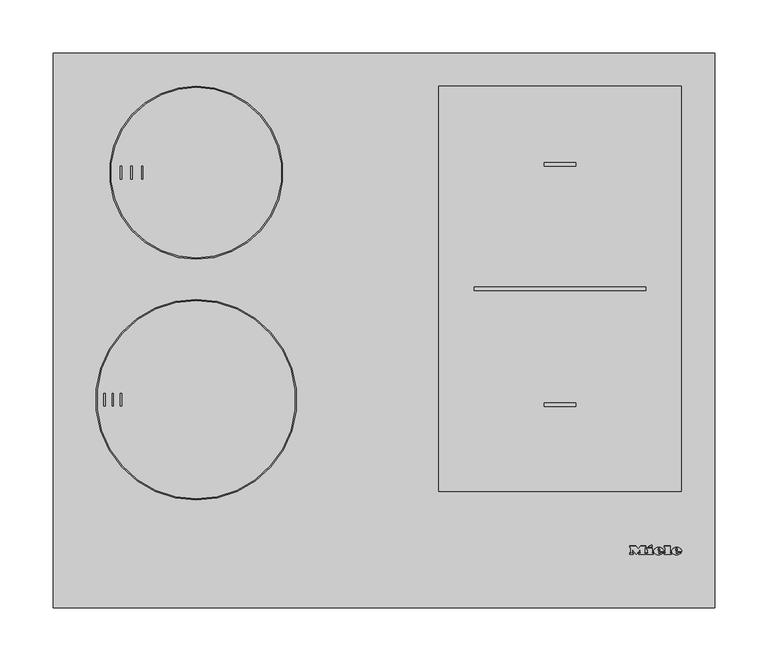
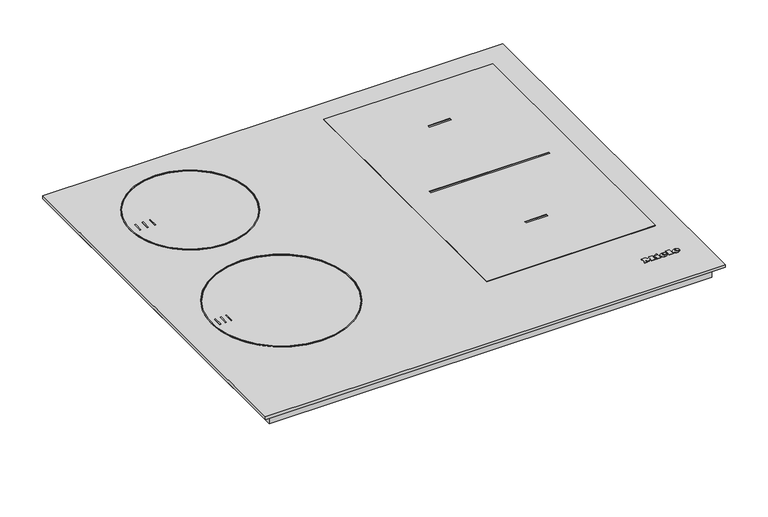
"""IFC4 building model written with IfcOpenShell, lengths in millimetres: proxy geometry, 12463620_TR_KM7466FL : 26746670_TR_12463620_KM7466FL."""

from ifc_helpers import new_model, si_unit, point, frame, frame_2d, origin, origin_with_axes, place, context, project, spatial, polyline, circle_curve, ellipse_curve, trimmed, segment, composite_curve, outline, extrude, source, transform, mapped, element, save
from ifc_brep_helpers import plane_surface, cylinder_surface, revolved_surface, extruded_surface, advanced_brep


def specialty_equipment_ddbcfdbc(model_context):
    return source(origin(), model_context, "Body", "SolidModel", [
        advanced_brep(
        [(273.66, 51.8948833, 4.4802537), (273.66, 52.7028828, 4.4811551), (279.012, 52.7028828, 4.4811551), (269.7, 52.7028828, 4.4811551), (271.9, 49.9988845, 4.4781386), (278.876, 51.8948833, 4.4802537), (276.46, 51.8948833, 4.4802537), (274.556, 50.9988838, 4.4792542), (273.66, 53.7268821, 4.4822974), (273.66, 54.5988816, 4.4832701), (275.028, 54.5988816, 4.4832701), (275.028, 53.7268821, 4.4822974), (273.66, 51.8959988, 3.4802543), (274.556, 50.9999994, 3.4792548), (276.46, 51.8959988, 3.4802543), (278.876, 51.8959988, 3.4802543), (271.9, 50.0, 3.4781393), (269.7, 52.7039983, 3.4811557), (279.012, 52.7039983, 3.4811557), (273.66, 52.7039983, 3.4811557), (273.66, 53.7279977, 3.482298), (275.028, 53.7279977, 3.482298), (275.028, 54.5999971, 3.4832707), (273.66, 54.5999971, 3.4832707)],
        [
            (0, 1),
            (1, 2),
            (2, 3, ellipse_curve(frame((274.356, 52.7028828, 4.4811551), z_axis=(0.0, -0.0011155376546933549, 0.9999993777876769), x_axis=(-1.0, 0.0, 0.0)), 4.656, 3.848)),
            (3, 4, circle_curve(frame((272.7960436, 52.9748826, 4.4814585), z_axis=(0.0, -0.0011155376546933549, 0.9999993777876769), x_axis=(0.0, -0.9999993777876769, -0.0011155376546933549)), 3.1079688)),
            (4, 5, circle_curve(frame((274.2627936, 55.0868813, 4.4838145), z_axis=(0.0, -0.0011155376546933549, 0.9999993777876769), x_axis=(0.0, -0.9999993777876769, -0.0011155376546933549)), 5.6098607)),
            (5, 6),
            (6, 7, circle_curve(frame((274.9470588, 52.6388828, 4.4810837), z_axis=(0.0, 0.0011155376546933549, -0.9999993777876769), x_axis=(0.0, -0.9999993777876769, -0.0011155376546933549)), 1.6859795)),
            (7, 0, circle_curve(frame((274.556, 51.8948833, 4.4802537), z_axis=(0.0, 0.0011155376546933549, -0.9999993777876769), x_axis=(0.0, -0.9999993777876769, -0.0011155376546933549)), 0.896)),
            (8, 9),
            (9, 10, circle_curve(frame((274.344, 54.5988816, 4.4832701), z_axis=(0.0, 0.0011155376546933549, -0.9999993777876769), x_axis=(0.0, -0.9999993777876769, -0.0011155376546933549)), 0.684)),
            (10, 11),
            (11, 8),
            (12, 13, circle_curve(frame((274.556, 51.8959988, 3.4802543), z_axis=(0.0, -0.0011155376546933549, 0.9999993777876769), x_axis=(0.0, -0.9999993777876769, -0.0011155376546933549)), 0.896)),
            (13, 14, circle_curve(frame((274.9470588, 52.6399984, 3.4810843), z_axis=(0.0, -0.0011155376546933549, 0.9999993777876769), x_axis=(0.0, -0.9999993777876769, -0.0011155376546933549)), 1.6859795)),
            (14, 15),
            (15, 16, circle_curve(frame((274.2627936, 55.0879968, 3.4838151), z_axis=(0.0, 0.0011155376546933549, -0.9999993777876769), x_axis=(0.0, -0.9999993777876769, -0.0011155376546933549)), 5.6098607)),
            (16, 17, circle_curve(frame((272.7960436, 52.9759981, 3.4814591), z_axis=(0.0, 0.0011155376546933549, -0.9999993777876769), x_axis=(0.0, -0.9999993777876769, -0.0011155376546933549)), 3.1079688)),
            (17, 18, ellipse_curve(frame((274.356, 52.7039983, 3.4811557), z_axis=(0.0, 0.0011155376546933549, -0.9999993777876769), x_axis=(-1.0, 0.0, 0.0)), 4.656, 3.848)),
            (18, 19),
            (19, 12),
            (20, 21),
            (21, 22),
            (22, 23, circle_curve(frame((274.344, 54.5999971, 3.4832707), z_axis=(0.0, -0.0011155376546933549, 0.9999993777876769), x_axis=(0.0, -0.9999993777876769, -0.0011155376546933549)), 0.684)),
            (23, 20),
            (0, 12),
            (19, 1),
            (18, 2),
            (5, 15),
            (14, 6),
            (17, 3),
            (13, 7),
            (16, 4),
            (8, 20),
            (23, 9),
            (22, 10),
            (21, 11),
        ],
        [
            plane_surface(frame((273.66, 52.7028828, 4.4811551), z_axis=(0.0, -0.0011155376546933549, 0.9999993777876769), x_axis=(0.0, 0.9999993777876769, 0.0011155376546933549))),
            plane_surface(frame((273.66, 52.7039983, 3.4811557), z_axis=(0.0, 0.0011155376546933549, -0.9999993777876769), x_axis=(0.0, -0.9999993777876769, -0.0011155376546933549))),
            plane_surface(frame((273.66, 51.8948833, 4.4802537), z_axis=(1.0000000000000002, 0.0, 0.0), x_axis=(0.0, 0.001115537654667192, -0.999999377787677))),
            plane_surface(frame((273.66, 52.7028828, 4.4811551), z_axis=(0.0, -0.999999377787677, -0.001115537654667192), x_axis=(0.0, 0.001115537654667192, -0.999999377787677))),
            plane_surface(frame((278.876, 51.8948833, 4.4802537), z_axis=(0.0, 0.999999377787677, 0.001115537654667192), x_axis=(0.0, 0.001115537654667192, -0.999999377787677))),
            extruded_surface(trimmed(ellipse_curve(frame((274.356, 52.7051139, 2.4811563), z_axis=(0.0, -0.0011155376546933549, 0.9999993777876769), x_axis=(-1.0, 0.0, 0.0)), 4.656, 3.848), [point((279.012, 52.7051139, 2.4811563))], [point((269.7, 52.7051139, 2.4811563))], True, "CARTESIAN"), (0.0, -0.001115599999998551, 0.9999994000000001), 1.00000002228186),
            revolved_surface(polyline([(274.9470588, 50.954019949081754, 3.479203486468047), (274.9470588, 50.95290441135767, 4.4792029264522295)]), (274.9470588, 52.6399984, 3.4810843), (0.0, 0.0011155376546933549, -0.9999993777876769)),
            revolved_surface(polyline([(274.556, 50.99999935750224, 3.4792547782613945), (274.556, 50.99888381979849, 4.479254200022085)]), (274.556, 51.8959988, 3.4802543), (0.0, 0.0011155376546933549, -0.9999993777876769)),
            cylinder_surface(frame((272.7960436, 52.9759981, 3.4814591), z_axis=(0.0, -0.0011155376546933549, 0.9999993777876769), x_axis=(0.0, -0.9999993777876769, -0.0011155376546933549)), 3.1079688),
            cylinder_surface(frame((274.2627936, 55.0879968, 3.4838151), z_axis=(0.0, -0.0011155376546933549, 0.9999993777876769), x_axis=(0.0, -0.9999993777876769, -0.0011155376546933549)), 5.6098607),
            plane_surface(frame((273.66, 53.7268821, 4.4822974), z_axis=(1.0000000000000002, 0.0, 0.0), x_axis=(0.0, 0.001115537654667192, -0.999999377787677))),
            revolved_surface(polyline([(274.344, 53.915997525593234, 3.4825076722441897), (274.344, 53.91488198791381, 4.482507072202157)]), (274.344, 54.5999971, 3.4832707), (0.0, 0.0011155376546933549, -0.9999993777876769)),
            plane_surface(frame((275.028, 54.5988816, 4.4832701), z_axis=(-1.0000000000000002, 0.0, 0.0), x_axis=(0.0, 0.001115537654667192, -0.999999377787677))),
            plane_surface(frame((275.028, 53.7268821, 4.4822974), z_axis=(0.0, 0.999999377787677, 0.001115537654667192), x_axis=(0.0, 0.001115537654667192, -0.999999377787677))),
        ],
        [
            (0, [[1, 2, 3, 4, 5, 6, 7, 8], [9, 10, 11, 12]]),
            (1, [[13, 14, 15, 16, 17, 18, 19, 20], [21, 22, 23, 24]]),
            (2, [[-1, 25, -20, 26]]),
            (3, [[-2, -26, -19, 27]]),
            (4, [[-6, 28, -15, 29]]),
            (5, [[-3, -27, -18, 30]]),
            (6, [[-7, -29, -14, 31]]),
            (7, [[-8, -31, -13, -25]]),
            (8, [[-4, -30, -17, 32]]),
            (9, [[-5, -32, -16, -28]]),
            (10, [[-9, 33, -24, 34]]),
            (11, [[-10, -34, -23, 35]]),
            (12, [[-11, -35, -22, 36]]),
            (13, [[-12, -36, -21, -33]]),
        ],
    ),
        advanced_brep(
        [(256.964, 51.8948833, 4.4802537), (256.964, 52.7028828, 4.4811551), (262.316, 52.7028828, 4.4811551), (253.004, 52.7028828, 4.4811551), (255.204, 49.9988845, 4.4781386), (262.18, 51.8948833, 4.4802537), (259.764, 51.8948833, 4.4802537), (257.86, 50.9988838, 4.4792542), (256.964, 53.7268821, 4.4822974), (256.964, 54.5988816, 4.4832701), (258.332, 54.5988816, 4.4832701), (258.332, 53.7268821, 4.4822974), (256.964, 51.8959988, 3.4802543), (257.86, 50.9999994, 3.4792548), (259.764, 51.8959988, 3.4802543), (262.18, 51.8959988, 3.4802543), (255.204, 50.0, 3.4781393), (253.004, 52.7039983, 3.4811557), (262.316, 52.7039983, 3.4811557), (256.964, 52.7039983, 3.4811557), (256.964, 53.7279977, 3.482298), (258.332, 53.7279977, 3.482298), (258.332, 54.5999971, 3.4832707), (256.964, 54.5999971, 3.4832707)],
        [
            (0, 1),
            (1, 2),
            (2, 3, ellipse_curve(frame((257.66, 52.7028828, 4.4811551), z_axis=(0.0, -0.0011155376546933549, 0.9999993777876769), x_axis=(-1.0, 0.0, 0.0)), 4.656, 3.848)),
            (3, 4, circle_curve(frame((256.1000436, 52.9748826, 4.4814585), z_axis=(0.0, -0.0011155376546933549, 0.9999993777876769), x_axis=(0.0, -0.9999993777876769, -0.0011155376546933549)), 3.1079688)),
            (4, 5, circle_curve(frame((257.5667936, 55.0868813, 4.4838145), z_axis=(0.0, -0.0011155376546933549, 0.9999993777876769), x_axis=(0.0, -0.9999993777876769, -0.0011155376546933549)), 5.6098607)),
            (5, 6),
            (6, 7, circle_curve(frame((258.2510588, 52.6388828, 4.4810837), z_axis=(0.0, 0.0011155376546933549, -0.9999993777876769), x_axis=(0.0, -0.9999993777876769, -0.0011155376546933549)), 1.6859795)),
            (7, 0, circle_curve(frame((257.86, 51.8948833, 4.4802537), z_axis=(0.0, 0.0011155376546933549, -0.9999993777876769), x_axis=(0.0, -0.9999993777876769, -0.0011155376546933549)), 0.896)),
            (8, 9),
            (9, 10, circle_curve(frame((257.648, 54.5988816, 4.4832701), z_axis=(0.0, 0.0011155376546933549, -0.9999993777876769), x_axis=(0.0, -0.9999993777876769, -0.0011155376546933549)), 0.684)),
            (10, 11),
            (11, 8),
            (12, 13, circle_curve(frame((257.86, 51.8959988, 3.4802543), z_axis=(0.0, -0.0011155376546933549, 0.9999993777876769), x_axis=(0.0, -0.9999993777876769, -0.0011155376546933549)), 0.896)),
            (13, 14, circle_curve(frame((258.2510588, 52.6399984, 3.4810843), z_axis=(0.0, -0.0011155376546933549, 0.9999993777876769), x_axis=(0.0, -0.9999993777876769, -0.0011155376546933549)), 1.6859795)),
            (14, 15),
            (15, 16, circle_curve(frame((257.5667936, 55.0879968, 3.4838151), z_axis=(0.0, 0.0011155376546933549, -0.9999993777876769), x_axis=(0.0, -0.9999993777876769, -0.0011155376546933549)), 5.6098607)),
            (16, 17, circle_curve(frame((256.1000436, 52.9759981, 3.4814591), z_axis=(0.0, 0.0011155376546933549, -0.9999993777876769), x_axis=(0.0, -0.9999993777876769, -0.0011155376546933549)), 3.1079688)),
            (17, 18, ellipse_curve(frame((257.66, 52.7039983, 3.4811557), z_axis=(0.0, 0.0011155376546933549, -0.9999993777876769), x_axis=(-1.0, 0.0, 0.0)), 4.656, 3.848)),
            (18, 19),
            (19, 12),
            (20, 21),
            (21, 22),
            (22, 23, circle_curve(frame((257.648, 54.5999971, 3.4832707), z_axis=(0.0, -0.0011155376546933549, 0.9999993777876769), x_axis=(0.0, -0.9999993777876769, -0.0011155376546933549)), 0.684)),
            (23, 20),
            (0, 12),
            (19, 1),
            (18, 2),
            (5, 15),
            (14, 6),
            (17, 3),
            (13, 7),
            (16, 4),
            (8, 20),
            (23, 9),
            (22, 10),
            (21, 11),
        ],
        [
            plane_surface(frame((256.964, 52.7028828, 4.4811551), z_axis=(0.0, -0.0011155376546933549, 0.9999993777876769), x_axis=(0.0, 0.9999993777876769, 0.0011155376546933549))),
            plane_surface(frame((256.964, 52.7039983, 3.4811557), z_axis=(0.0, 0.0011155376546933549, -0.9999993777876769), x_axis=(0.0, -0.9999993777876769, -0.0011155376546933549))),
            plane_surface(frame((256.964, 51.8948833, 4.4802537), z_axis=(1.0000000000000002, 0.0, 0.0), x_axis=(0.0, 0.001115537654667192, -0.999999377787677))),
            plane_surface(frame((256.964, 52.7028828, 4.4811551), z_axis=(0.0, -0.999999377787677, -0.001115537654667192), x_axis=(0.0, 0.001115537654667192, -0.999999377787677))),
            plane_surface(frame((262.18, 51.8948833, 4.4802537), z_axis=(0.0, 0.999999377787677, 0.001115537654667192), x_axis=(0.0, 0.001115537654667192, -0.999999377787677))),
            extruded_surface(trimmed(ellipse_curve(frame((257.66, 52.7051139, 2.4811563), z_axis=(0.0, -0.0011155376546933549, 0.9999993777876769), x_axis=(-1.0, 0.0, 0.0)), 4.656, 3.848), [point((262.316, 52.7051139, 2.4811563))], [point((253.004, 52.7051139, 2.4811563))], True, "CARTESIAN"), (0.0, -0.001115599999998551, 0.9999994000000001), 1.00000002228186),
            revolved_surface(polyline([(258.2510588, 50.954019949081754, 3.479203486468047), (258.2510588, 50.95290441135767, 4.4792029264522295)]), (258.2510588, 52.6399984, 3.4810843), (0.0, 0.0011155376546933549, -0.9999993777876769)),
            revolved_surface(polyline([(257.86, 50.99999935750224, 3.4792547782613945), (257.86, 50.99888381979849, 4.479254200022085)]), (257.86, 51.8959988, 3.4802543), (0.0, 0.0011155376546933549, -0.9999993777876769)),
            cylinder_surface(frame((256.1000436, 52.9759981, 3.4814591), z_axis=(0.0, -0.0011155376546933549, 0.9999993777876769), x_axis=(0.0, -0.9999993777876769, -0.0011155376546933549)), 3.1079688),
            cylinder_surface(frame((257.5667936, 55.0879968, 3.4838151), z_axis=(0.0, -0.0011155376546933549, 0.9999993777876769), x_axis=(0.0, -0.9999993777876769, -0.0011155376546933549)), 5.6098607),
            plane_surface(frame((256.964, 53.7268821, 4.4822974), z_axis=(1.0000000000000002, 0.0, 0.0), x_axis=(0.0, 0.001115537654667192, -0.999999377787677))),
            revolved_surface(polyline([(257.648, 53.915997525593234, 3.4825076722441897), (257.648, 53.91488198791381, 4.482507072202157)]), (257.648, 54.5999971, 3.4832707), (0.0, 0.0011155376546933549, -0.9999993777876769)),
            plane_surface(frame((258.332, 54.5988816, 4.4832701), z_axis=(-1.0000000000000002, 0.0, 0.0), x_axis=(0.0, 0.001115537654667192, -0.999999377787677))),
            plane_surface(frame((258.332, 53.7268821, 4.4822974), z_axis=(0.0, 0.999999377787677, 0.001115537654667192), x_axis=(0.0, 0.001115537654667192, -0.999999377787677))),
        ],
        [
            (0, [[1, 2, 3, 4, 5, 6, 7, 8], [9, 10, 11, 12]]),
            (1, [[13, 14, 15, 16, 17, 18, 19, 20], [21, 22, 23, 24]]),
            (2, [[-1, 25, -20, 26]]),
            (3, [[-2, -26, -19, 27]]),
            (4, [[-6, 28, -15, 29]]),
            (5, [[-3, -27, -18, 30]]),
            (6, [[-7, -29, -14, 31]]),
            (7, [[-8, -31, -13, -25]]),
            (8, [[-4, -30, -17, 32]]),
            (9, [[-5, -32, -16, -28]]),
            (10, [[-9, 33, -24, 34]]),
            (11, [[-10, -34, -23, 35]]),
            (12, [[-11, -35, -22, 36]]),
            (13, [[-12, -36, -21, -33]]),
        ],
    ),
        extrude(outline(polyline([(0.0, 0.0), (-0.0109086, -2.9993294), (-1.4390415, -2.9920868), (-1.4315307, 0.0), (0.0, 0.0)])), frame((248.22, 57.5279953, 3.486537), z_axis=(0.0, -0.001115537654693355, 0.9999993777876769), x_axis=(-0.4247202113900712, 0.9053240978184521, 0.0010099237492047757)), (0.0, 0.0, 1.0), 1.0),
        extrude(outline(polyline([(-0.4933908, 2.4141097), (-2.7800844, -2.4601583), (-7.0459741, -0.4588767), (-7.4401145, -1.299018), (-8.6568709, -0.728194), (-5.9760369, 4.9862153), (-4.7592805, 4.4153913), (-5.1636142, 3.5535222), (-2.1941493, 2.1604399), (-1.7898157, 3.022309), (-0.4933908, 2.4141097)])), frame((248.22, 57.5279953, 3.486537), z_axis=(0.0, -0.001115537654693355, 0.9999993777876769), x_axis=(-0.4247202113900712, 0.9053240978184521, 0.0010099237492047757)), (0.0, 0.0, 1.0), 1.0),
        extrude(outline(polyline([(0.0, 0.0), (0.0, -1.304), (-5.504, -1.304), (-5.504, 5.3519999), (-6.488, 5.3519999), (-6.488, 6.696), (0.0, 6.696), (0.0, 5.3519999), (-0.96, 5.3519999), (-0.96, 0.0), (0.0, 0.0)])), frame((262.764, 56.6959958, 3.4856089), z_axis=(0.0, -0.0011155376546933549, 0.9999993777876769), x_axis=(-1.0, 0.0, 0.0)), (0.0, 0.0, 1.0), 1.0),
        extrude(outline(polyline([(0.0, 0.0), (0.0, -1.304), (-5.576, -1.304), (-7.92, 1.696), (-10.256, -1.304), (-15.128, -1.304), (-15.128, 0.0), (-14.112, 0.0), (-14.112, 5.3519999), (-15.128, 5.3519999), (-15.128, 6.696), (-8.744, 6.696), (-8.744, 5.3519999), (-9.728, 5.3519999), (-9.728, 1.8807777), (-6.136, 6.696), (-2.56, 1.9488752), (-2.56, 5.3519999), (-3.52, 5.3519999), (-3.52, 6.696), (0.0, 6.696), (0.0, 5.3519999), (-0.968, 5.3519999), (-0.968, 0.0), (0.0, 0.0)])), frame((230.3, 56.6959958, 3.4856089), z_axis=(0.0, -0.0011155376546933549, 0.9999993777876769), x_axis=(-1.0, 0.0, 0.0)), (0.0, 0.0, 1.0), 1.0),
        extrude(outline(polyline([(310.0, 520.0), (310.0, 0.0), (-310.0, 0.0), (-310.0, 520.0), (310.0, 520.0)])), origin_with_axes(), (0.0, 0.0, 1.0), 4.0),
        extrude(outline(polyline([(298.5, 508.5), (298.5, 11.5), (-298.5, 11.5), (-298.5, 508.5), (298.5, 508.5)])), frame((0.0, 0.0, -16.8), z_axis=(0.0, 0.0, 1.0), x_axis=(1.0, 0.0, 0.0)), (0.0, 0.0, 1.0), 16.8),
        extrude(outline(polyline([(-202.8, 318.7), (-224.2, 318.7), (-224.2, 402.1), (-202.8, 402.1), (-202.8, 452.3), (203.2, 452.3), (203.2, 81.3), (-202.8, 81.3), (-202.8, 318.7)])), frame((0.0, 0.0, -46.5), z_axis=(0.0, 0.0, 1.0), x_axis=(1.0, 0.0, 0.0)), (0.0, 0.0, 1.0), 29.7),
        extrude(outline(polyline([(141.2772603, 415.5), (133.9, 415.5), (133.9, 416.7557039), (140.0215564, 416.7557039), (140.0215564, 420.0519266), (134.370889, 420.0519266), (134.370889, 421.3076304), (140.0215564, 421.3076304), (140.0215564, 424.2899271), (134.056963, 424.2899271), (134.056963, 425.545631), (141.2772603, 425.545631), (141.2772603, 415.5)])), frame((0.0, 0.0, -77.5), z_axis=(0.0, 0.0, 1.0), x_axis=(1.0, 0.0, 0.0)), (0.0, 0.0, 1.0), 1.0),
        extrude(outline(polyline([(132.0164442, 415.5), (125.7379248, 415.5), (125.7379248, 416.7557039), (130.7607403, 416.7557039), (130.7607403, 425.545631), (132.0164442, 425.545631), (132.0164442, 415.5)])), frame((0.0, 0.0, -77.5), z_axis=(0.0, 0.0, 1.0), x_axis=(1.0, 0.0, 0.0)), (0.0, 0.0, 1.0), 1.0),
        extrude(outline(composite_curve([segment(trimmed(circle_curve(frame_2d((133.9, 420.5)), 7.5), [point((133.9, 428.0))], [point((133.9, 413.0))], False, "CARTESIAN"), True, "CONTINUOUS"), segment(trimmed(circle_curve(frame_2d((133.9, 420.5)), 7.5), [point((133.9, 413.0))], [point((133.9, 428.0))], False, "CARTESIAN"), True, "CONTINUOUS")], self_intersect=False)), frame((0.0, 0.0, -76.5), z_axis=(0.0, 0.0, 1.0), x_axis=(1.0, 0.0, 0.0)), (0.0, 0.0, 1.0), 30.0),
        extrude(outline(polyline([(278.75, 489.25), (278.75, 108.75), (51.25, 108.75), (51.25, 489.25), (278.75, 489.25)]), holes=[polyline([(245.3, 300.6), (84.7, 300.6), (84.7, 297.4), (245.3, 297.4), (245.3, 300.6)]), polyline([(179.65, 417.35), (150.35, 417.35), (150.35, 414.15), (179.65, 414.15), (179.65, 417.35)]), polyline([(179.65, 191.85), (150.35, 191.85), (150.35, 188.65), (179.65, 188.65), (179.65, 191.85)])]), frame((0.0, 0.0, 4.0), z_axis=(0.0, 0.0, 1.0), x_axis=(1.0, 0.0, 0.0)), (0.0, 0.0, 1.0), 1.0),
        extrude(outline(composite_curve([segment(trimmed(circle_curve(frame_2d((-291.0, 80.0)), 3.0), [point((-291.0, 83.0))], [point((-291.0, 77.0))], False, "CARTESIAN"), True, "CONTINUOUS"), segment(trimmed(circle_curve(frame_2d((-291.0, 80.0)), 3.0), [point((-291.0, 77.0))], [point((-291.0, 83.0))], False, "CARTESIAN"), True, "CONTINUOUS")], self_intersect=False)), frame((0.0, 0.0, -22.0), z_axis=(0.0, 0.0, 1.0), x_axis=(1.0, 0.0, 0.0)), (0.0, 0.0, 1.0), 5.2),
        extrude(outline(composite_curve([segment(trimmed(circle_curve(frame_2d((291.0, 440.0)), 3.0), [point((291.0, 443.0))], [point((291.0, 437.0))], False, "CARTESIAN"), True, "CONTINUOUS"), segment(trimmed(circle_curve(frame_2d((291.0, 440.0)), 3.0), [point((291.0, 437.0))], [point((291.0, 443.0))], False, "CARTESIAN"), True, "CONTINUOUS")], self_intersect=False)), frame((0.0, 0.0, -22.0), z_axis=(0.0, 0.0, 1.0), x_axis=(1.0, 0.0, 0.0)), (0.0, 0.0, 1.0), 5.2),
        extrude(outline(composite_curve([segment(trimmed(circle_curve(frame_2d((-176.0, 408.0)), 81.2), [point((-176.0, 489.2))], [point((-176.0, 326.8))], False, "CARTESIAN"), True, "CONTINUOUS"), segment(trimmed(circle_curve(frame_2d((-176.0, 408.0)), 81.2), [point((-176.0, 326.8))], [point((-176.0, 489.2))], False, "CARTESIAN"), True, "CONTINUOUS")], self_intersect=False), holes=[composite_curve([segment(trimmed(circle_curve(frame_2d((-176.0, 408.0)), 80.0), [point((-176.0, 488.0))], [point((-176.0, 328.0))], True, "CARTESIAN"), True, "CONTINUOUS"), segment(trimmed(circle_curve(frame_2d((-176.0, 408.0)), 80.0), [point((-176.0, 328.0))], [point((-176.0, 488.0))], True, "CARTESIAN"), True, "CONTINUOUS")], self_intersect=False)]), frame((0.0, 0.0, 4.0), z_axis=(0.0, 0.0, 1.0), x_axis=(1.0, 0.0, 0.0)), (0.0, 0.0, 1.0), 1.0),
        extrude(outline(polyline([(-227.2, 414.0), (-226.0, 414.0), (-226.0, 402.0), (-227.2, 402.0), (-227.2, 414.0)])), frame((0.0, 0.0, 4.0), z_axis=(0.0, 0.0, 1.0), x_axis=(1.0, 0.0, 0.0)), (0.0, 0.0, 1.0), 1.0),
        extrude(outline(polyline([(-237.2, 414.0), (-236.0, 414.0), (-236.0, 402.0), (-237.2, 402.0), (-237.2, 414.0)])), frame((0.0, 0.0, 4.0), z_axis=(0.0, 0.0, 1.0), x_axis=(1.0, 0.0, 0.0)), (0.0, 0.0, 1.0), 1.0),
        extrude(outline(polyline([(-247.2, 414.0), (-246.0, 414.0), (-246.0, 402.0), (-247.2, 402.0), (-247.2, 414.0)])), frame((0.0, 0.0, 4.0), z_axis=(0.0, 0.0, 1.0), x_axis=(1.0, 0.0, 0.0)), (0.0, 0.0, 1.0), 1.0),
        extrude(outline(composite_curve([segment(trimmed(circle_curve(frame_2d((-176.0, 195.0)), 94.2), [point((-176.0, 289.2))], [point((-176.0, 100.8))], False, "CARTESIAN"), True, "CONTINUOUS"), segment(trimmed(circle_curve(frame_2d((-176.0, 195.0)), 94.2), [point((-176.0, 100.8))], [point((-176.0, 289.2))], False, "CARTESIAN"), True, "CONTINUOUS")], self_intersect=False), holes=[composite_curve([segment(trimmed(circle_curve(frame_2d((-176.0, 195.0)), 93.0), [point((-176.0, 288.0))], [point((-176.0, 102.0))], True, "CARTESIAN"), True, "CONTINUOUS"), segment(trimmed(circle_curve(frame_2d((-176.0, 195.0)), 93.0), [point((-176.0, 102.0))], [point((-176.0, 288.0))], True, "CARTESIAN"), True, "CONTINUOUS")], self_intersect=False)]), frame((0.0, 0.0, 4.0), z_axis=(0.0, 0.0, 1.0), x_axis=(1.0, 0.0, 0.0)), (0.0, 0.0, 1.0), 1.0),
        extrude(outline(polyline([(-247.2, 201.0), (-246.0, 201.0), (-246.0, 189.0), (-247.2, 189.0), (-247.2, 201.0)])), frame((0.0, 0.0, 4.0), z_axis=(0.0, 0.0, 1.0), x_axis=(1.0, 0.0, 0.0)), (0.0, 0.0, 1.0), 1.0),
        extrude(outline(polyline([(-254.9, 201.0), (-253.7, 201.0), (-253.7, 189.0), (-254.9, 189.0), (-254.9, 201.0)])), frame((0.0, 0.0, 4.0), z_axis=(0.0, 0.0, 1.0), x_axis=(1.0, 0.0, 0.0)), (0.0, 0.0, 1.0), 1.0),
        extrude(outline(polyline([(-262.6, 201.0), (-261.4, 201.0), (-261.4, 189.0), (-262.6, 189.0), (-262.6, 201.0)])), frame((0.0, 0.0, 4.0), z_axis=(0.0, 0.0, 1.0), x_axis=(1.0, 0.0, 0.0)), (0.0, 0.0, 1.0), 1.0),
    ])


if __name__ == "__main__":
    model = new_model("IFC4")
    model_context = context("Model", 3, world=origin())
    ifc_project = project(units=[si_unit("LENGTHUNIT", "METRE", prefix="MILLI")], contexts=[model_context])
    site = spatial("IfcSite", under=ifc_project)
    building = spatial("IfcBuilding", under=site)
    placement = place(None, origin())
    specialty_equipment_shape = specialty_equipment_ddbcfdbc(model_context)
    element("IfcBuildingElementProxy", 1, Name="12463620_TR_KM7466FL : 26746670_TR_12463620_KM7466FL", ObjectType="12463620_TR_KM7466FL : 26746670_TR_12463620_KM7466FL", at=placement, inside=building, context=model_context, shape_type="MappedRepresentation", body=[
        mapped(specialty_equipment_shape, transform((0.0, 0.0, 0.0), x_axis=(1.0, 0.0, 0.0), y_axis=(0.0, 1.0, 0.0), z_axis=(0.0, 0.0, 1.0))),
    ])
    save(model, "model.ifc")
